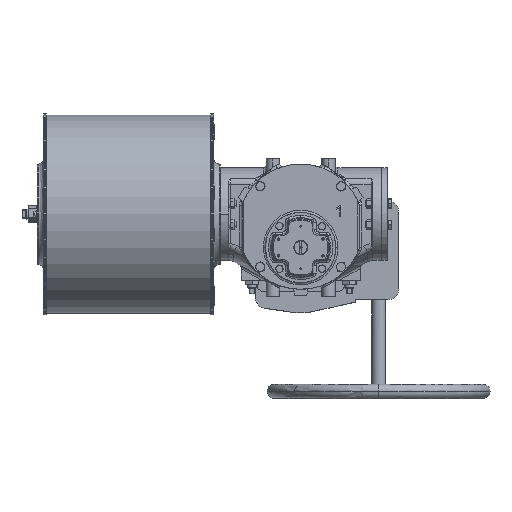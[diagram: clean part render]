
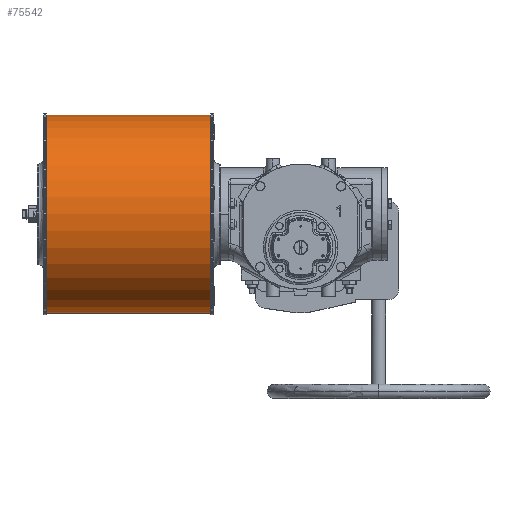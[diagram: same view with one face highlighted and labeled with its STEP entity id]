
A CAD part, top view. The second image highlights one B-rep face of the part: STEP entity #75542.
In plain terms, the highlighted cylindrical face has radius 177.8 mm (diameter 355.6 mm), a partial arc.
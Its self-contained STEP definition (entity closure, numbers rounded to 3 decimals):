
#79 = FACE_OUTER_BOUND ( 'NONE', #71442, .T. ) ;
#206 = ORIENTED_EDGE ( 'NONE', *, *, #81260, .T. ) ;
#4621 = LINE ( 'NONE', #56367, #48743 ) ;
#7473 = VERTEX_POINT ( 'NONE', #79261 ) ;
#13430 = AXIS2_PLACEMENT_3D ( 'NONE', #77232, #18261, #71713 ) ;
#13763 = EDGE_CURVE ( 'NONE', #7473, #23545, #45925, .T. ) ;
#14231 = ORIENTED_EDGE ( 'NONE', *, *, #50826, .T. ) ;
#15842 = CIRCLE ( 'NONE', #63291, 177.8 ) ;
#17453 = DIRECTION ( 'NONE',  ( 0., 1., 0. ) ) ;
#18261 = DIRECTION ( 'NONE',  ( 1., 0., 0. ) ) ;
#18293 = DIRECTION ( 'NONE',  ( 1., 0., 0. ) ) ;
#20443 = CARTESIAN_POINT ( 'NONE',  ( -456.5, 200.3, 57.5 ) ) ;
#21266 = DIRECTION ( 'NONE',  ( 1., 0., 0. ) ) ;
#21727 = ORIENTED_EDGE ( 'NONE', *, *, #73874, .T. ) ;
#22141 = ORIENTED_EDGE ( 'NONE', *, *, #13763, .F. ) ;
#23545 = VERTEX_POINT ( 'NONE', #65568 ) ;
#37387 = CYLINDRICAL_SURFACE ( 'NONE', #66064, 177.8 ) ;
#45925 = LINE ( 'NONE', #20443, #69497 ) ;
#46205 = VERTEX_POINT ( 'NONE', #70832 ) ;
#48743 = VECTOR ( 'NONE', #48755, 1000. ) ;
#48755 = DIRECTION ( 'NONE',  ( 1., 0., 0. ) ) ;
#50826 = EDGE_CURVE ( 'NONE', #7473, #46205, #66262, .T. ) ;
#56367 = CARTESIAN_POINT ( 'NONE',  ( -456.5, -155.3, 57.5 ) ) ;
#63283 = CARTESIAN_POINT ( 'NONE',  ( -456.5, 22.5, 57.5 ) ) ;
#63291 = AXIS2_PLACEMENT_3D ( 'NONE', #76919, #64600, #70544 ) ;
#64600 = DIRECTION ( 'NONE',  ( -1., 0., 0. ) ) ;
#65568 = CARTESIAN_POINT ( 'NONE',  ( -161.5, 200.3, 57.5 ) ) ;
#66064 = AXIS2_PLACEMENT_3D ( 'NONE', #63283, #18293, #17453 ) ;
#66262 = CIRCLE ( 'NONE', #13430, 177.8 ) ;
#69497 = VECTOR ( 'NONE', #21266, 1000. ) ;
#70544 = DIRECTION ( 'NONE',  ( 0., 1., 0. ) ) ;
#70832 = CARTESIAN_POINT ( 'NONE',  ( -456.5, -155.3, 57.5 ) ) ;
#71006 = CARTESIAN_POINT ( 'NONE',  ( -161.5, -155.3, 57.5 ) ) ;
#71442 = EDGE_LOOP ( 'NONE', ( #14231, #21727, #206, #22141 ) ) ;
#71713 = DIRECTION ( 'NONE',  ( 0., 1., 0. ) ) ;
#72325 = VERTEX_POINT ( 'NONE', #71006 ) ;
#73874 = EDGE_CURVE ( 'NONE', #46205, #72325, #4621, .T. ) ;
#75542 = ADVANCED_FACE ( 'NONE', ( #79 ), #37387, .T. ) ;
#76919 = CARTESIAN_POINT ( 'NONE',  ( -161.5, 22.5, 57.5 ) ) ;
#77232 = CARTESIAN_POINT ( 'NONE',  ( -456.5, 22.5, 57.5 ) ) ;
#79261 = CARTESIAN_POINT ( 'NONE',  ( -456.5, 200.3, 57.5 ) ) ;
#81260 = EDGE_CURVE ( 'NONE', #72325, #23545, #15842, .T. ) ;
